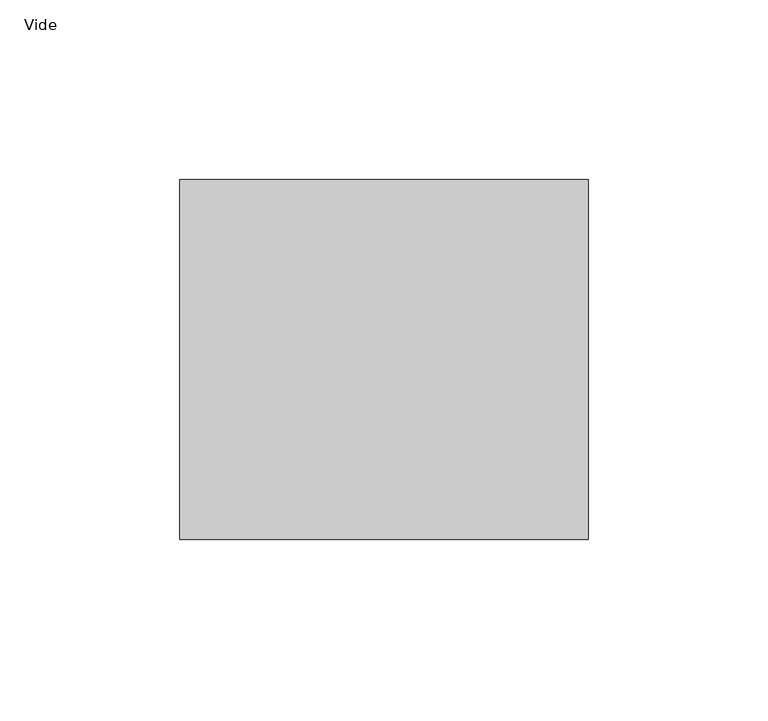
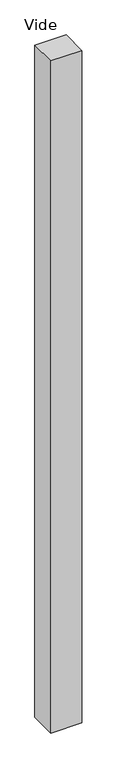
"""IFC4 building model written with IfcOpenShell, lengths in millimetres: plate geometry, Panneau système vide : Vide."""

from ifc_helpers import new_model, si_unit, origin, origin_with_axes, place, context, project, spatial, polyline, outline, extrude, source, transform, mapped, element, save


def vide_34ec2051(model_context):
    return source(origin(), model_context, "Body", "SweptSolid", [
        extrude(outline(polyline([(56.7160343, 50.0), (-56.7160343, 50.0), (-56.7160343, 150.0), (56.7160343, 150.0), (56.7160343, 50.0)])), origin_with_axes(), (0.0, 0.0, 1.0), 2588.190451),
    ])


if __name__ == "__main__":
    model = new_model("IFC4")
    model_context = context("Model", 3, world=origin())
    ifc_project = project(units=[si_unit("LENGTHUNIT", "METRE", prefix="MILLI")], contexts=[model_context])
    site = spatial("IfcSite", under=ifc_project)
    building = spatial("IfcBuilding", under=site)
    placement = place(None, origin())
    vide_shape = vide_34ec2051(model_context)
    element("IfcPlate", 1, ObjectType="Panneau système vide : Vide", at=placement, inside=building, context=model_context, shape_type="MappedRepresentation", body=[
        mapped(vide_shape, transform((0.0, 0.0, 0.0), x_axis=(1.0, 0.0, 0.0), y_axis=(0.0, 1.0, 0.0), z_axis=(0.0, 0.0, 1.0))),
    ])
    save(model, "model.ifc")
